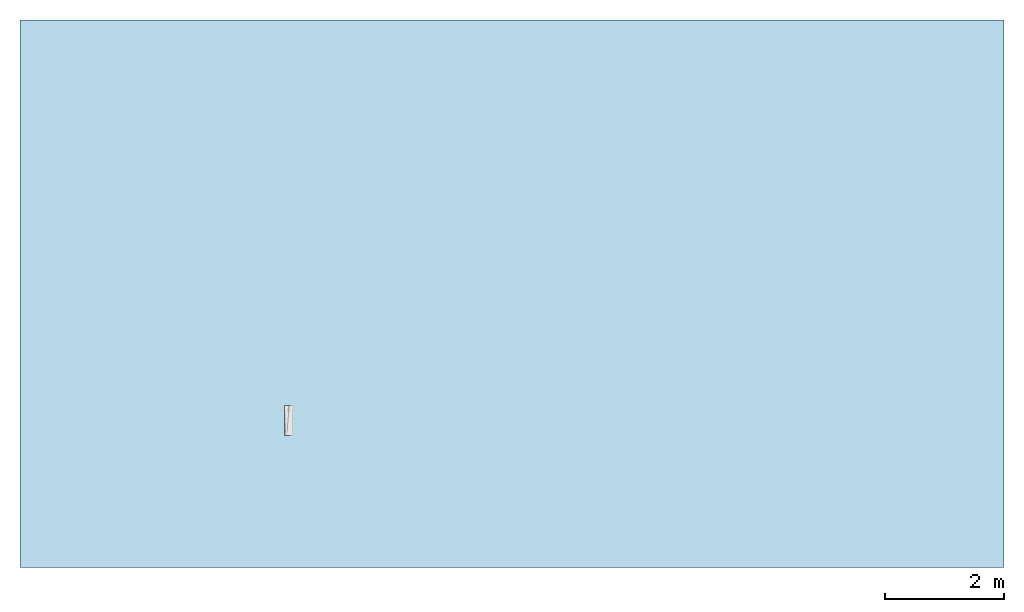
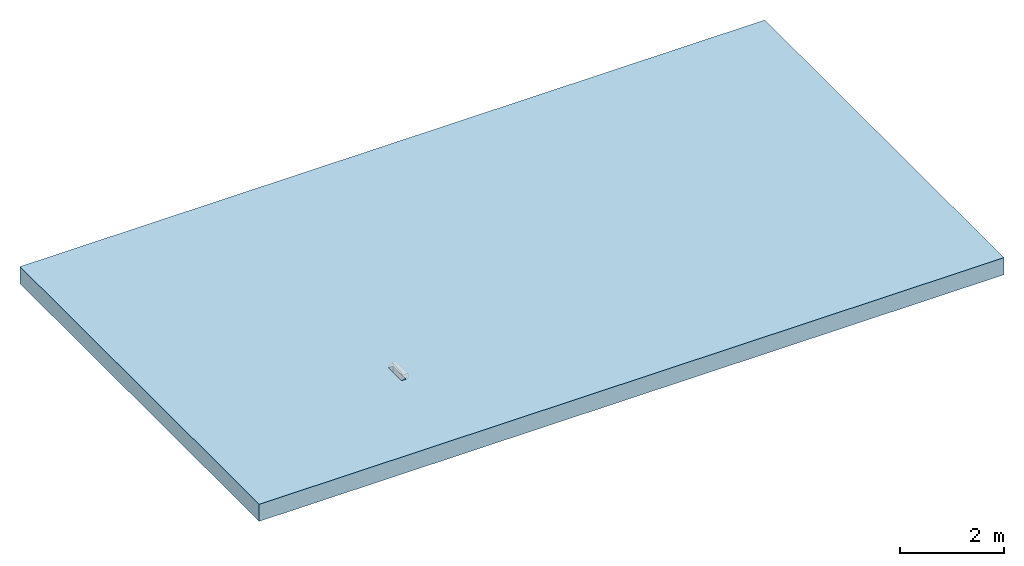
# One storey, part 1 of 2: 1 slab, 1 opening.
"""IFC2X3 building model written with IfcOpenShell, lengths in millimetres."""

from ifc_helpers import new_model, entity, si_unit, converted_unit, direction, frame, frame_2d, origin, place, context, subcontext, project, spatial, polyline, rectangle, outline, extrude, material, layer, layer_set, layer_usage, element, save


model = new_model("IFC2X3")

# Units and contexts
model_context = context("Model", 3, precision=1e-06, world=origin(), true_north=direction((2.0, 6.12303176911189e-17, 1.0)))
context_of_model = context(None, 3, precision=1e-06, world=origin(), true_north=direction((2.0, 6.12303176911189e-17, 1.0)))
body_context = subcontext(model_context, "Body", "Model", "MODEL_VIEW")
ifc_project = project(units=[si_unit("LENGTHUNIT", "METRE", prefix="MILLI"), si_unit("AREAUNIT", "SQUARE_METRE", prefix="MILLI"), si_unit("VOLUMEUNIT", "CUBIC_METRE", prefix="MILLI"), converted_unit("PLANEANGLEUNIT", "DEGREE", entity("IfcRatioMeasure", 0.0174532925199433), si_unit("PLANEANGLEUNIT", "RADIAN"), dimensions=[0, 0, 0, 0, 0, 0, 0]), si_unit("TIMEUNIT", "SECOND")], contexts=[model_context, context_of_model])

# Site, building, storey
site_placement = place(None, origin())
site = spatial("IfcSite", under=ifc_project, at=site_placement, Name="Default", CompositionType="ELEMENT")
building_placement = place(site_placement, origin())
building = spatial("IfcBuilding", under=site, at=building_placement, CompositionType="ELEMENT")
storey_placement = place(building_placement, origin())
storey = spatial("IfcBuildingStorey", under=building, at=storey_placement, Name="Level 1", CompositionType="ELEMENT", Elevation=0.0)

# Slab, opening
ifc_material = material(Name="Plant")
ifc_layer = layer(ifc_material, 400.0)
ifc_layer_set = layer_set([ifc_layer], Name="Floor:Generic Floor - 400mm")
ifc_layer_usage = layer_usage(ifc_layer_set, "AXIS3", "POSITIVE", 0.0)
slab_placement = place(storey_placement, frame((-17967.0691536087, -3738.31688706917, -400.0)))
slab = element("IfcSlab", 1, at=slab_placement, inside=storey, material=ifc_layer_usage, Name="Floor:Generic Floor - 400mm", ObjectType="Floor:Generic Floor - 400mm", PredefinedType="FLOOR", context=body_context, shape_type="SweptSolid", body=[
    extrude(rectangle(XDim=9180.0, YDim=16500.0, at=frame_2d((0.0, 0.0), x_axis=(0.0, -1.0))), frame((8250.0, 4590.0, 400.0), z_axis=(0.0, 0.0, -1.0), x_axis=(-1.0, 0.0, 0.0)), (0.0, 0.0, 1.0), 400.0),
])
opening_placement = place(slab_placement, origin())
element("IfcOpeningElement", 2, at=opening_placement, cuts=slab, ObjectType="Recess", context=body_context, shape_type="SweptSolid", body=[
    extrude(outline(polyline([(-250.08773539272, -160.0), (249.91226460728, -160.0), (249.91226460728, 20.0), (140.263206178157, 20.0), (140.263206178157, 120.0), (-140.087735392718, 120.0), (-140.087735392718, 20.0), (-250.08773539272, 20.0), (-250.08773539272, -160.0)])), frame((4431.71857473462, 2466.34556071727, 380.0), z_axis=(1.0, 0.0, 0.0), x_axis=(0.0, 1.0, 0.0)), (0.0, 0.0, 1.0), 99.9999999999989),
])

save(model, "model.ifc")
